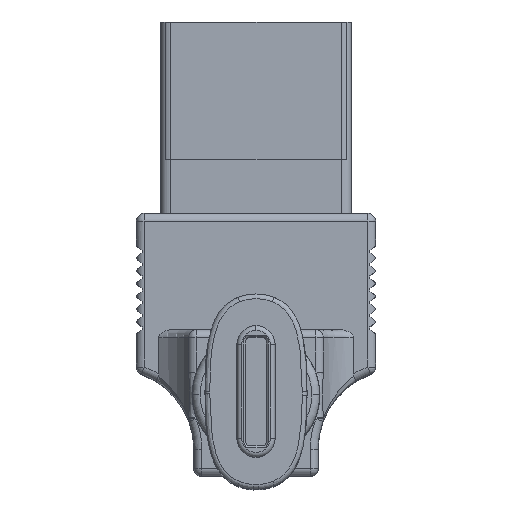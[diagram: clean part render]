
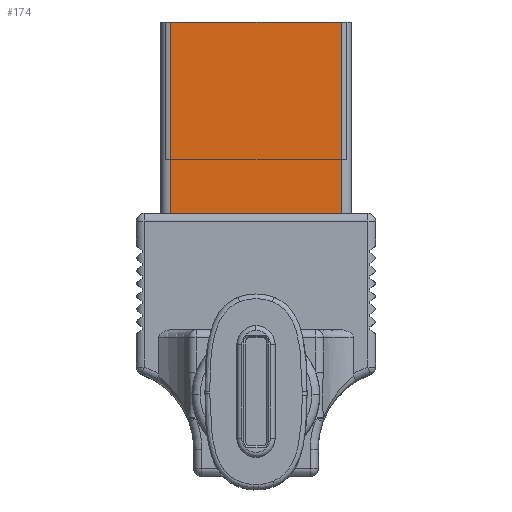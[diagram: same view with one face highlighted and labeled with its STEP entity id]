
A CAD part, top view. The second image highlights one B-rep face of the part: STEP entity #174.
In plain terms, the highlighted planar face has unit normal (0, 0, 1).
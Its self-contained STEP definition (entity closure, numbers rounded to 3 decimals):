
#158 = VERTEX_POINT ( 'NONE', #12874 ) ;
#174 = ADVANCED_FACE ( 'NONE', ( #4838 ), #16654, .T. ) ;
#199 = CARTESIAN_POINT ( 'NONE',  ( -6., 23.4, 2.25 ) ) ;
#369 = EDGE_CURVE ( 'NONE', #17441, #5018, #16375, .T. ) ;
#928 = ORIENTED_EDGE ( 'NONE', *, *, #369, .T. ) ;
#2241 = CARTESIAN_POINT ( 'NONE',  ( 7.5, 11.4, 2.25 ) ) ;
#2293 = CARTESIAN_POINT ( 'NONE',  ( 5.36, 8.292, 2.25 ) ) ;
#2772 = VECTOR ( 'NONE', #7947, 1000. ) ;
#3555 = CARTESIAN_POINT ( 'NONE',  ( -5.36, 23.4, 2.25 ) ) ;
#4838 = FACE_OUTER_BOUND ( 'NONE', #16724, .T. ) ;
#5018 = VERTEX_POINT ( 'NONE', #10909 ) ;
#5066 = EDGE_CURVE ( 'NONE', #8747, #5018, #14342, .T. ) ;
#5624 = VECTOR ( 'NONE', #10994, 1000. ) ;
#6124 = ORIENTED_EDGE ( 'NONE', *, *, #5066, .F. ) ;
#6672 = DIRECTION ( 'NONE',  ( 0., -1., 0. ) ) ;
#7670 = EDGE_CURVE ( 'NONE', #8747, #158, #14391, .T. ) ;
#7947 = DIRECTION ( 'NONE',  ( 0., 1., 0. ) ) ;
#8747 = VERTEX_POINT ( 'NONE', #14203 ) ;
#9055 = DIRECTION ( 'NONE',  ( -1., 0., 0. ) ) ;
#9392 = EDGE_CURVE ( 'NONE', #17441, #158, #13552, .T. ) ;
#10055 = DIRECTION ( 'NONE',  ( 0., 0., 1. ) ) ;
#10150 = DIRECTION ( 'NONE',  ( 0., 1., 0. ) ) ;
#10909 = CARTESIAN_POINT ( 'NONE',  ( -5.36, 11.4, 2.25 ) ) ;
#10994 = DIRECTION ( 'NONE',  ( 1., 0., 0. ) ) ;
#11463 = CARTESIAN_POINT ( 'NONE',  ( 0., 8.292, 2.25 ) ) ;
#12874 = CARTESIAN_POINT ( 'NONE',  ( 5.36, 23.4, 2.25 ) ) ;
#12900 = AXIS2_PLACEMENT_3D ( 'NONE', #11463, #10055, #10150 ) ;
#13142 = ORIENTED_EDGE ( 'NONE', *, *, #7670, .T. ) ;
#13458 = VECTOR ( 'NONE', #6672, 1000. ) ;
#13552 = LINE ( 'NONE', #199, #5624 ) ;
#14203 = CARTESIAN_POINT ( 'NONE',  ( 5.36, 11.4, 2.25 ) ) ;
#14342 = LINE ( 'NONE', #2241, #16285 ) ;
#14391 = LINE ( 'NONE', #2293, #2772 ) ;
#16022 = CARTESIAN_POINT ( 'NONE',  ( -5.36, 8.292, 2.25 ) ) ;
#16285 = VECTOR ( 'NONE', #9055, 1000. ) ;
#16375 = LINE ( 'NONE', #16022, #13458 ) ;
#16581 = ORIENTED_EDGE ( 'NONE', *, *, #9392, .F. ) ;
#16654 = PLANE ( 'NONE',  #12900 ) ;
#16724 = EDGE_LOOP ( 'NONE', ( #6124, #13142, #16581, #928 ) ) ;
#17441 = VERTEX_POINT ( 'NONE', #3555 ) ;
